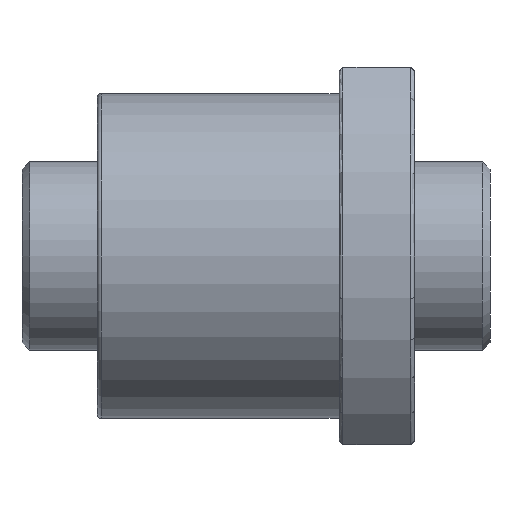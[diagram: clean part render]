
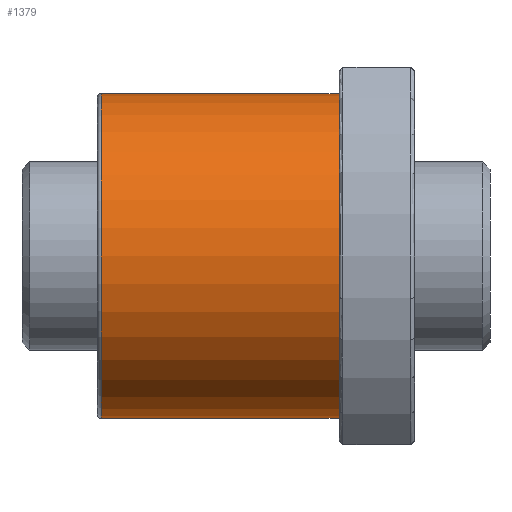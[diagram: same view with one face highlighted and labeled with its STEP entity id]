
A CAD part, front view. The second image highlights one B-rep face of the part: STEP entity #1379.
In plain terms, the highlighted cylindrical face has radius 21.5 mm (diameter 43 mm), a partial arc.
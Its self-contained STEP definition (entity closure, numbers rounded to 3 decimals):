
#24 = CARTESIAN_POINT ( 'NONE',  ( -32., 0., -21.5 ) ) ;
#163 = DIRECTION ( 'NONE',  ( -1., 0., 0. ) ) ;
#256 = DIRECTION ( 'NONE',  ( 1., 0., 0. ) ) ;
#626 = ORIENTED_EDGE ( 'NONE', *, *, #2257, .T. ) ;
#665 = VERTEX_POINT ( 'NONE', #3323 ) ;
#777 = CARTESIAN_POINT ( 'NONE',  ( -31.5, 0., 21.5 ) ) ;
#928 = CARTESIAN_POINT ( 'NONE',  ( 0., 0., -21.5 ) ) ;
#994 = LINE ( 'NONE', #24, #3759 ) ;
#1103 = CARTESIAN_POINT ( 'NONE',  ( -32., 0., 0. ) ) ;
#1200 = CARTESIAN_POINT ( 'NONE',  ( -32., 0., 21.5 ) ) ;
#1252 = EDGE_CURVE ( 'NONE', #2834, #665, #3409, .T. ) ;
#1256 = AXIS2_PLACEMENT_3D ( 'NONE', #1315, #2949, #1910 ) ;
#1276 = CARTESIAN_POINT ( 'NONE',  ( -31.5, 0., -21.5 ) ) ;
#1294 = CYLINDRICAL_SURFACE ( 'NONE', #3545, 21.5 ) ;
#1315 = CARTESIAN_POINT ( 'NONE',  ( -31.5, 0., 0. ) ) ;
#1379 = ADVANCED_FACE ( 'NONE', ( #3867 ), #1294, .T. ) ;
#1734 = DIRECTION ( 'NONE',  ( 0., 0., -1. ) ) ;
#1798 = ORIENTED_EDGE ( 'NONE', *, *, #1826, .T. ) ;
#1826 = EDGE_CURVE ( 'NONE', #2714, #665, #2993, .T. ) ;
#1910 = DIRECTION ( 'NONE',  ( 0., 0., 1. ) ) ;
#2012 = DIRECTION ( 'NONE',  ( 1., 0., 0. ) ) ;
#2024 = CARTESIAN_POINT ( 'NONE',  ( 0., 0., 0. ) ) ;
#2075 = CIRCLE ( 'NONE', #1256, 21.5 ) ;
#2201 = EDGE_CURVE ( 'NONE', #2834, #2248, #2075, .T. ) ;
#2248 = VERTEX_POINT ( 'NONE', #1276 ) ;
#2257 = EDGE_CURVE ( 'NONE', #2248, #2714, #994, .T. ) ;
#2261 = DIRECTION ( 'NONE',  ( 1., 0., 0. ) ) ;
#2345 = DIRECTION ( 'NONE',  ( 0., 0., -1. ) ) ;
#2714 = VERTEX_POINT ( 'NONE', #928 ) ;
#2834 = VERTEX_POINT ( 'NONE', #777 ) ;
#2936 = ORIENTED_EDGE ( 'NONE', *, *, #2201, .T. ) ;
#2949 = DIRECTION ( 'NONE',  ( 1., 0., 0. ) ) ;
#2993 = CIRCLE ( 'NONE', #3927, 21.5 ) ;
#3095 = VECTOR ( 'NONE', #256, 1000. ) ;
#3323 = CARTESIAN_POINT ( 'NONE',  ( 0., 0., 21.5 ) ) ;
#3409 = LINE ( 'NONE', #1200, #3095 ) ;
#3545 = AXIS2_PLACEMENT_3D ( 'NONE', #1103, #2012, #2345 ) ;
#3759 = VECTOR ( 'NONE', #2261, 1000. ) ;
#3767 = ORIENTED_EDGE ( 'NONE', *, *, #1252, .F. ) ;
#3867 = FACE_OUTER_BOUND ( 'NONE', #4028, .T. ) ;
#3927 = AXIS2_PLACEMENT_3D ( 'NONE', #2024, #163, #1734 ) ;
#4028 = EDGE_LOOP ( 'NONE', ( #3767, #2936, #626, #1798 ) ) ;
